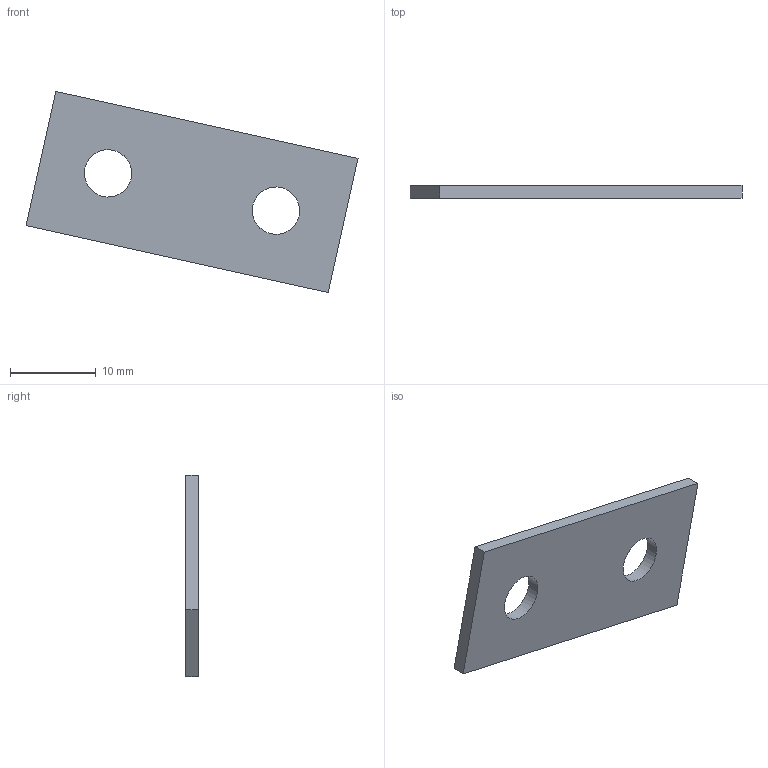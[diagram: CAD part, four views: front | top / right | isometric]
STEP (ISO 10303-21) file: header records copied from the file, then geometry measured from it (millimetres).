
FILE_DESCRIPTION(('Open CASCADE Model'),'2;1');
FILE_NAME('Open CASCADE Shape Model','2026-10-16T05:25:08',('Author'),( 'Open CASCADE'),'Open CASCADE STEP processor 7.9','Open CASCADE 7.9' ,'Unknown');
FILE_SCHEMA(('AUTOMOTIVE_DESIGN { 1 0 10303 214 1 1 1 1 }'));
Length unit declared in the file: millimetre
Products named in the file (1): Open CASCADE STEP translator 7.9 8
Bounding box: 38.61 x 1.5 x 23.41 mm (x, y, z)
Volume: 792.7 mm3; surface area: 1264.8 mm2
Topology: 1 solids, 1 shells, 8 faces, 18 edges, 12 vertices
Faces by surface type: plane 6, cylinder 2
Full cylindrical faces by diameter (mm): 5.5 x2
Entity records: 490 total; most frequent: CARTESIAN_POINT 99, DIRECTION 72, LINE 46, VECTOR 46, ORIENTED_EDGE 36, PCURVE 36, DEFINITIONAL_REPRESENTATION 36, EDGE_CURVE 18
